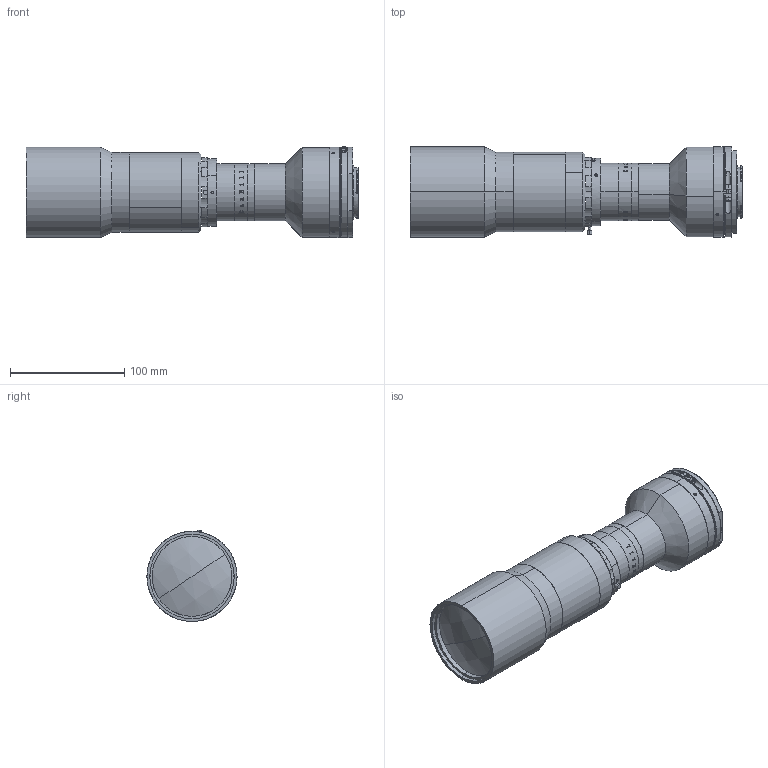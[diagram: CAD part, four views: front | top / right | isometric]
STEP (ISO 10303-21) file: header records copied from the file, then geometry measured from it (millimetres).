
FILE_DESCRIPTION (( 'STEP AP203' ), '1' );
FILE_NAME ('XF-PTL05532-F-VI.STEP', '2019-07-22T03:02:32', ( 'lawlynn' ), ( '' ), 'SwSTEP 2.0', 'SolidWorks 2014', '' );
FILE_SCHEMA (( 'CONFIG_CONTROL_DESIGN' ));
Length unit declared in the file: millimetre
Products named in the file (1): XF-PTL05532-F-VI
Bounding box: 290.89 x 79 x 79.75 mm (x, y, z)
Surface area: 96356.4 mm2 (no closed solid volume)
Topology: 0 solids, 39 shells, 271 faces, 1353 edges, 1118 vertices
Faces by surface type: cylinder 121, plane 96, cone 31, bspline 11, torus 8, sphere 4
Entity records: 22322 total; most frequent: CARTESIAN_POINT 12225, DIRECTION 1930, ORIENTED_EDGE 1821, EDGE_CURVE 1353, VERTEX_POINT 1118, AXIS2_PLACEMENT_3D 738, CIRCLE 477, LINE 454
